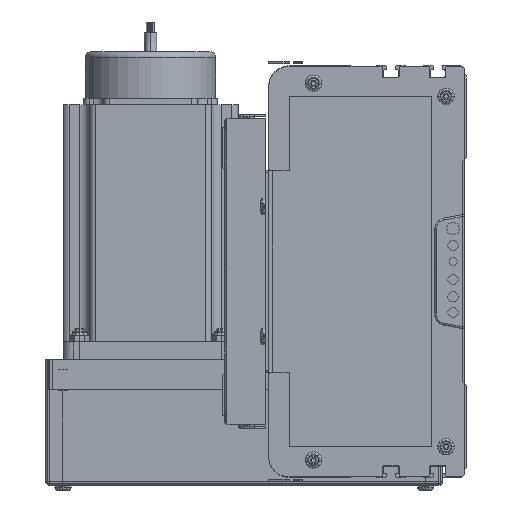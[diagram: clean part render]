
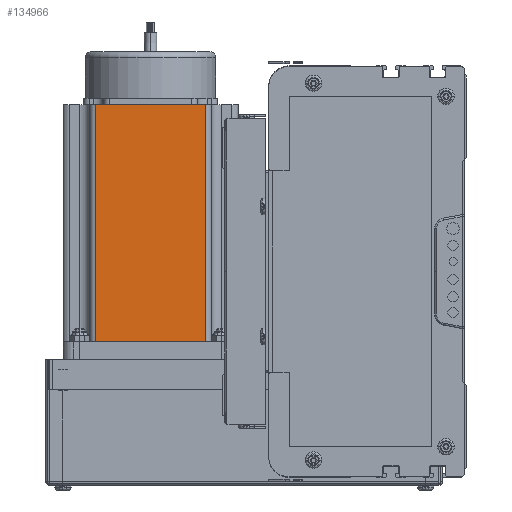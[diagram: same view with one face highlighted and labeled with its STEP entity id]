
A CAD part, left-side view. The second image highlights one B-rep face of the part: STEP entity #134966.
In plain terms, the highlighted planar face has unit normal (-1, 0, 0) as drawn and (0, -1, 0) by its records, which use the part's own axes.
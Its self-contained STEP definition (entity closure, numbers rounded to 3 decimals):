
#7806 = VERTEX_POINT ( 'NONE', #25485 ) ;
#10197 = CARTESIAN_POINT ( 'NONE',  ( 16.16, 0., 116.5 ) ) ;
#11497 = DIRECTION ( 'NONE',  ( 1., 0., 0. ) ) ;
#11498 = VECTOR ( 'NONE', #11497, 1000. ) ;
#11500 = CARTESIAN_POINT ( 'NONE',  ( 0., 0., 116.5 ) ) ;
#11502 = LINE ( 'NONE', #11500, #11498 ) ;
#25485 = CARTESIAN_POINT ( 'NONE',  ( 16.16, 0., 0. ) ) ;
#60452 = VERTEX_POINT ( 'NONE', #10197 ) ;
#60799 = ORIENTED_EDGE ( 'NONE', *, *, #61190, .F. ) ;
#61190 = EDGE_CURVE ( 'NONE', #60452, #134938, #11502, .T. ) ;
#78141 = CARTESIAN_POINT ( 'NONE',  ( 69.74, 0., 0. ) ) ;
#78143 = DIRECTION ( 'NONE',  ( 0., 1., 0. ) ) ;
#78177 = DIRECTION ( 'NONE',  ( 1., 0., 0. ) ) ;
#78178 = VECTOR ( 'NONE', #78177, 1000. ) ;
#78179 = CARTESIAN_POINT ( 'NONE',  ( 0., 0., 0. ) ) ;
#78180 = LINE ( 'NONE', #78179, #78178 ) ;
#78181 = VECTOR ( 'NONE', #78182, 1000. ) ;
#78182 = DIRECTION ( 'NONE',  ( 0., 0., 1. ) ) ;
#78183 = CARTESIAN_POINT ( 'NONE',  ( 69.74, 0., 116.5 ) ) ;
#78184 = DIRECTION ( 'NONE',  ( 0., 0., 1. ) ) ;
#78186 = PLANE ( 'NONE',  #78196 ) ;
#78187 = LINE ( 'NONE', #78183, #78181 ) ;
#78188 = CARTESIAN_POINT ( 'NONE',  ( 0., 0., 116.5 ) ) ;
#78191 = FACE_OUTER_BOUND ( 'NONE', #135107, .T. ) ;
#78196 = AXIS2_PLACEMENT_3D ( 'NONE', #78188, #78143, #78184 ) ;
#78211 = CARTESIAN_POINT ( 'NONE',  ( 69.74, 0., 116.5 ) ) ;
#90873 = EDGE_CURVE ( 'NONE', #60452, #7806, #120475, .T. ) ;
#90899 = ORIENTED_EDGE ( 'NONE', *, *, #90873, .T. ) ;
#120468 = DIRECTION ( 'NONE',  ( 0., 0., -1. ) ) ;
#120469 = VECTOR ( 'NONE', #120468, 1000. ) ;
#120471 = CARTESIAN_POINT ( 'NONE',  ( 16.16, 0., 116.5 ) ) ;
#120475 = LINE ( 'NONE', #120471, #120469 ) ;
#134807 = VERTEX_POINT ( 'NONE', #78141 ) ;
#134938 = VERTEX_POINT ( 'NONE', #78211 ) ;
#134966 = ADVANCED_FACE ( 'NONE', ( #78191 ), #78186, .F. ) ;
#134971 = ORIENTED_EDGE ( 'NONE', *, *, #134979, .T. ) ;
#134974 = ORIENTED_EDGE ( 'NONE', *, *, #134983, .T. ) ;
#134979 = EDGE_CURVE ( 'NONE', #134807, #134938, #78187, .T. ) ;
#134983 = EDGE_CURVE ( 'NONE', #7806, #134807, #78180, .T. ) ;
#135107 = EDGE_LOOP ( 'NONE', ( #134974, #134971, #60799, #90899 ) ) ;
